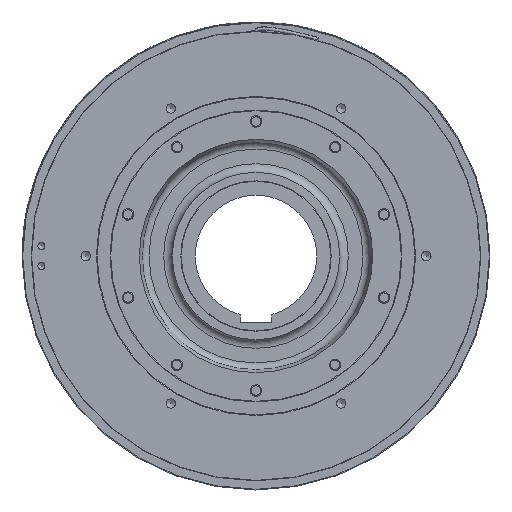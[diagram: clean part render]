
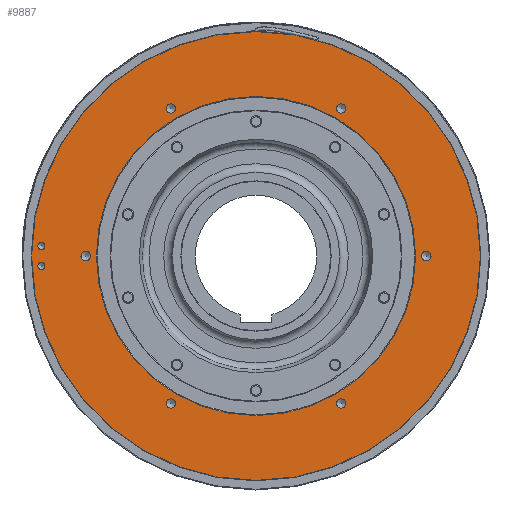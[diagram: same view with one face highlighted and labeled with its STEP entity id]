
A CAD part, left-side view. The second image highlights one B-rep face of the part: STEP entity #9887.
In plain terms, the highlighted planar face has unit normal (-1, 0, 0).
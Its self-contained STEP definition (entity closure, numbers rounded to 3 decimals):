
#105=PLANE('',#10519);
#251=FACE_BOUND('',#2413,.T.);
#252=FACE_BOUND('',#2414,.T.);
#253=FACE_BOUND('',#2415,.T.);
#254=FACE_BOUND('',#2416,.T.);
#255=FACE_BOUND('',#2417,.T.);
#256=FACE_BOUND('',#2418,.T.);
#257=FACE_BOUND('',#2419,.T.);
#258=FACE_BOUND('',#2420,.T.);
#259=FACE_BOUND('',#2421,.T.);
#1867=FACE_OUTER_BOUND('',#2412,.T.);
#2412=EDGE_LOOP('',(#6832,#6833));
#2413=EDGE_LOOP('',(#6834,#6835));
#2414=EDGE_LOOP('',(#6836,#6837));
#2415=EDGE_LOOP('',(#6838,#6839));
#2416=EDGE_LOOP('',(#6840,#6841));
#2417=EDGE_LOOP('',(#6842,#6843));
#2418=EDGE_LOOP('',(#6844,#6845));
#2419=EDGE_LOOP('',(#6846,#6847));
#2420=EDGE_LOOP('',(#6848,#6849));
#2421=EDGE_LOOP('',(#6850));
#3135=CIRCLE('',#10455,156.8);
#3136=CIRCLE('',#10456,156.8);
#3145=CIRCLE('',#10471,2.459);
#3146=CIRCLE('',#10472,2.459);
#3149=CIRCLE('',#10477,2.459);
#3150=CIRCLE('',#10478,2.459);
#3153=CIRCLE('',#10483,3.324);
#3154=CIRCLE('',#10484,3.324);
#3157=CIRCLE('',#10489,3.324);
#3158=CIRCLE('',#10490,3.324);
#3161=CIRCLE('',#10495,3.324);
#3162=CIRCLE('',#10496,3.324);
#3165=CIRCLE('',#10501,3.324);
#3166=CIRCLE('',#10502,3.324);
#3169=CIRCLE('',#10507,3.324);
#3170=CIRCLE('',#10508,3.324);
#3173=CIRCLE('',#10513,3.324);
#3174=CIRCLE('',#10514,3.324);
#3177=CIRCLE('',#10518,111.5);
#4078=VERTEX_POINT('',#15915);
#4079=VERTEX_POINT('',#15916);
#4089=VERTEX_POINT('',#15962);
#4090=VERTEX_POINT('',#15963);
#4094=VERTEX_POINT('',#15975);
#4095=VERTEX_POINT('',#15976);
#4099=VERTEX_POINT('',#15988);
#4100=VERTEX_POINT('',#15989);
#4104=VERTEX_POINT('',#16001);
#4105=VERTEX_POINT('',#16002);
#4109=VERTEX_POINT('',#16014);
#4110=VERTEX_POINT('',#16015);
#4114=VERTEX_POINT('',#16027);
#4115=VERTEX_POINT('',#16028);
#4119=VERTEX_POINT('',#16040);
#4120=VERTEX_POINT('',#16041);
#4124=VERTEX_POINT('',#16053);
#4125=VERTEX_POINT('',#16054);
#4128=VERTEX_POINT('',#16063);
#5166=EDGE_CURVE('',#4078,#4079,#3135,.T.);
#5167=EDGE_CURVE('',#4079,#4078,#3136,.T.);
#5179=EDGE_CURVE('',#4089,#4090,#3145,.T.);
#5180=EDGE_CURVE('',#4090,#4089,#3146,.T.);
#5185=EDGE_CURVE('',#4094,#4095,#3149,.T.);
#5186=EDGE_CURVE('',#4095,#4094,#3150,.T.);
#5191=EDGE_CURVE('',#4099,#4100,#3153,.T.);
#5192=EDGE_CURVE('',#4100,#4099,#3154,.T.);
#5197=EDGE_CURVE('',#4104,#4105,#3157,.T.);
#5198=EDGE_CURVE('',#4105,#4104,#3158,.T.);
#5203=EDGE_CURVE('',#4109,#4110,#3161,.T.);
#5204=EDGE_CURVE('',#4110,#4109,#3162,.T.);
#5209=EDGE_CURVE('',#4114,#4115,#3165,.T.);
#5210=EDGE_CURVE('',#4115,#4114,#3166,.T.);
#5215=EDGE_CURVE('',#4119,#4120,#3169,.T.);
#5216=EDGE_CURVE('',#4120,#4119,#3170,.T.);
#5221=EDGE_CURVE('',#4124,#4125,#3173,.T.);
#5222=EDGE_CURVE('',#4125,#4124,#3174,.T.);
#5227=EDGE_CURVE('',#4128,#4128,#3177,.T.);
#6832=ORIENTED_EDGE('',*,*,#5166,.T.);
#6833=ORIENTED_EDGE('',*,*,#5167,.T.);
#6834=ORIENTED_EDGE('',*,*,#5179,.T.);
#6835=ORIENTED_EDGE('',*,*,#5180,.T.);
#6836=ORIENTED_EDGE('',*,*,#5185,.T.);
#6837=ORIENTED_EDGE('',*,*,#5186,.T.);
#6838=ORIENTED_EDGE('',*,*,#5191,.T.);
#6839=ORIENTED_EDGE('',*,*,#5192,.T.);
#6840=ORIENTED_EDGE('',*,*,#5197,.T.);
#6841=ORIENTED_EDGE('',*,*,#5198,.T.);
#6842=ORIENTED_EDGE('',*,*,#5203,.T.);
#6843=ORIENTED_EDGE('',*,*,#5204,.T.);
#6844=ORIENTED_EDGE('',*,*,#5209,.T.);
#6845=ORIENTED_EDGE('',*,*,#5210,.T.);
#6846=ORIENTED_EDGE('',*,*,#5215,.T.);
#6847=ORIENTED_EDGE('',*,*,#5216,.T.);
#6848=ORIENTED_EDGE('',*,*,#5221,.T.);
#6849=ORIENTED_EDGE('',*,*,#5222,.T.);
#6850=ORIENTED_EDGE('',*,*,#5227,.F.);
#9887=ADVANCED_FACE('',(#1867,#251,#252,#253,#254,#255,#256,#257,#258,#259),
#105,.T.);
#10455=AXIS2_PLACEMENT_3D('',#15917,#11977,#11978);
#10456=AXIS2_PLACEMENT_3D('',#15918,#11979,#11980);
#10471=AXIS2_PLACEMENT_3D('',#15964,#12011,#12012);
#10472=AXIS2_PLACEMENT_3D('',#15965,#12013,#12014);
#10477=AXIS2_PLACEMENT_3D('',#15977,#12025,#12026);
#10478=AXIS2_PLACEMENT_3D('',#15978,#12027,#12028);
#10483=AXIS2_PLACEMENT_3D('',#15990,#12039,#12040);
#10484=AXIS2_PLACEMENT_3D('',#15991,#12041,#12042);
#10489=AXIS2_PLACEMENT_3D('',#16003,#12053,#12054);
#10490=AXIS2_PLACEMENT_3D('',#16004,#12055,#12056);
#10495=AXIS2_PLACEMENT_3D('',#16016,#12067,#12068);
#10496=AXIS2_PLACEMENT_3D('',#16017,#12069,#12070);
#10501=AXIS2_PLACEMENT_3D('',#16029,#12081,#12082);
#10502=AXIS2_PLACEMENT_3D('',#16030,#12083,#12084);
#10507=AXIS2_PLACEMENT_3D('',#16042,#12095,#12096);
#10508=AXIS2_PLACEMENT_3D('',#16043,#12097,#12098);
#10513=AXIS2_PLACEMENT_3D('',#16055,#12109,#12110);
#10514=AXIS2_PLACEMENT_3D('',#16056,#12111,#12112);
#10518=AXIS2_PLACEMENT_3D('',#16065,#12121,#12122);
#10519=AXIS2_PLACEMENT_3D('',#16066,#12123,#12124);
#11977=DIRECTION('center_axis',(-1.,0.,0.));
#11978=DIRECTION('ref_axis',(0.,1.,0.));
#11979=DIRECTION('center_axis',(-1.,0.,0.));
#11980=DIRECTION('ref_axis',(0.,1.,0.));
#12011=DIRECTION('center_axis',(1.,0.,0.));
#12012=DIRECTION('ref_axis',(0.,0.,
1.));
#12013=DIRECTION('center_axis',(1.,0.,0.));
#12014=DIRECTION('ref_axis',(0.,0.,
1.));
#12025=DIRECTION('center_axis',(1.,0.,0.));
#12026=DIRECTION('ref_axis',(0.,0.,
1.));
#12027=DIRECTION('center_axis',(1.,0.,0.));
#12028=DIRECTION('ref_axis',(0.,0.,
1.));
#12039=DIRECTION('center_axis',(1.,0.,0.));
#12040=DIRECTION('ref_axis',(0.,0.,
1.));
#12041=DIRECTION('center_axis',(1.,0.,0.));
#12042=DIRECTION('ref_axis',(0.,0.,
1.));
#12053=DIRECTION('center_axis',(1.,0.,0.));
#12054=DIRECTION('ref_axis',(0.,0.,
1.));
#12055=DIRECTION('center_axis',(1.,0.,0.));
#12056=DIRECTION('ref_axis',(0.,0.,
1.));
#12067=DIRECTION('center_axis',(1.,0.,0.));
#12068=DIRECTION('ref_axis',(0.,0.,
1.));
#12069=DIRECTION('center_axis',(1.,0.,0.));
#12070=DIRECTION('ref_axis',(0.,0.,
1.));
#12081=DIRECTION('center_axis',(1.,0.,0.));
#12082=DIRECTION('ref_axis',(0.,0.,
1.));
#12083=DIRECTION('center_axis',(1.,0.,0.));
#12084=DIRECTION('ref_axis',(0.,0.,
1.));
#12095=DIRECTION('center_axis',(1.,0.,0.));
#12096=DIRECTION('ref_axis',(0.,0.,
1.));
#12097=DIRECTION('center_axis',(1.,0.,0.));
#12098=DIRECTION('ref_axis',(0.,0.,
1.));
#12109=DIRECTION('center_axis',(1.,0.,0.));
#12110=DIRECTION('ref_axis',(0.,0.,
1.));
#12111=DIRECTION('center_axis',(1.,0.,0.));
#12112=DIRECTION('ref_axis',(0.,0.,
1.));
#12121=DIRECTION('center_axis',(-1.,0.,0.));
#12122=DIRECTION('ref_axis',(0.,-1.,0.));
#12123=DIRECTION('center_axis',(-1.,0.,0.));
#12124=DIRECTION('ref_axis',(0.,0.,
1.));
#15915=CARTESIAN_POINT('',(-21.,156.8,0.));
#15916=CARTESIAN_POINT('',(-21.,-156.8,0.));
#15917=CARTESIAN_POINT('Origin',(-21.,0.,0.));
#15918=CARTESIAN_POINT('Origin',(-21.,0.,0.));
#15962=CARTESIAN_POINT('',(-21.,150.,9.459));
#15963=CARTESIAN_POINT('',(-21.,150.,4.542));
#15964=CARTESIAN_POINT('Origin',(-21.,150.,7.));
#15965=CARTESIAN_POINT('Origin',(-21.,150.,7.));
#15975=CARTESIAN_POINT('',(-21.,150.,-4.542));
#15976=CARTESIAN_POINT('',(-21.,150.,-9.459));
#15977=CARTESIAN_POINT('Origin',(-21.,150.,-7.));
#15978=CARTESIAN_POINT('Origin',(-21.,150.,-7.));
#15988=CARTESIAN_POINT('',(-21.,59.5,106.381));
#15989=CARTESIAN_POINT('',(-21.,59.5,99.734));
#15990=CARTESIAN_POINT('Origin',(-21.,59.5,103.057));
#15991=CARTESIAN_POINT('Origin',(-21.,59.5,103.057));
#16001=CARTESIAN_POINT('',(-21.,-59.5,106.381));
#16002=CARTESIAN_POINT('',(-21.,-59.5,99.734));
#16003=CARTESIAN_POINT('Origin',(-21.,-59.5,103.057));
#16004=CARTESIAN_POINT('Origin',(-21.,-59.5,103.057));
#16014=CARTESIAN_POINT('',(-21.,-119.,3.323));
#16015=CARTESIAN_POINT('',(-21.,-119.,-3.324));
#16016=CARTESIAN_POINT('Origin',(-21.,-119.,0.));
#16017=CARTESIAN_POINT('Origin',(-21.,-119.,0.));
#16027=CARTESIAN_POINT('',(-21.,-59.5,-99.734));
#16028=CARTESIAN_POINT('',(-21.,-59.5,-106.381));
#16029=CARTESIAN_POINT('Origin',(-21.,-59.5,-103.057));
#16030=CARTESIAN_POINT('Origin',(-21.,-59.5,-103.057));
#16040=CARTESIAN_POINT('',(-21.,59.5,-99.734));
#16041=CARTESIAN_POINT('',(-21.,59.5,-106.381));
#16042=CARTESIAN_POINT('Origin',(-21.,59.5,-103.057));
#16043=CARTESIAN_POINT('Origin',(-21.,59.5,-103.057));
#16053=CARTESIAN_POINT('',(-21.,119.,3.324));
#16054=CARTESIAN_POINT('',(-21.,119.,-3.324));
#16055=CARTESIAN_POINT('Origin',(-21.,119.,0.));
#16056=CARTESIAN_POINT('Origin',(-21.,119.,0.));
#16063=CARTESIAN_POINT('',(-21.,111.5,0.));
#16065=CARTESIAN_POINT('Origin',(-21.,0.,0.));
#16066=CARTESIAN_POINT('Origin',(-21.,133.9,0.));
